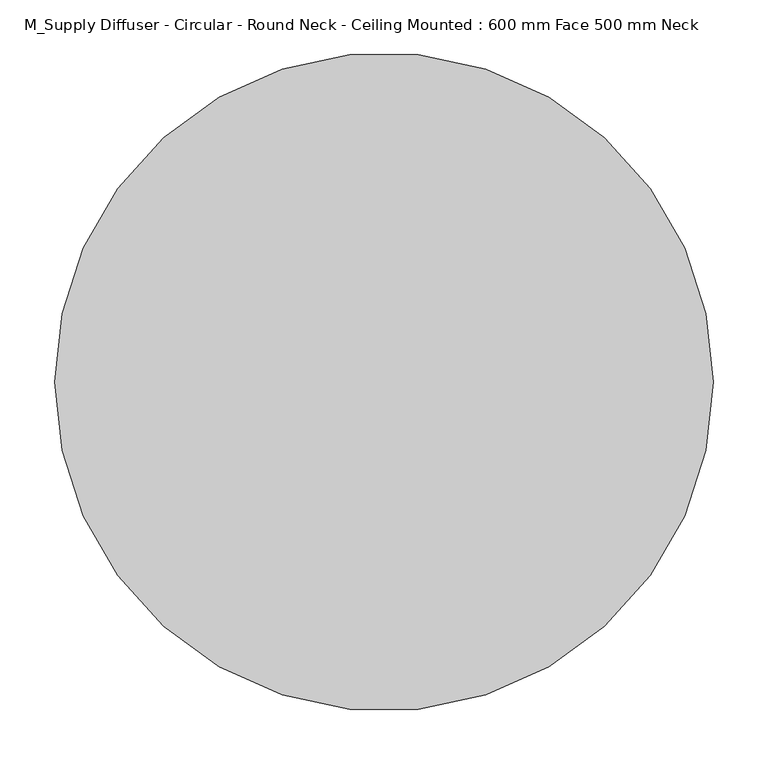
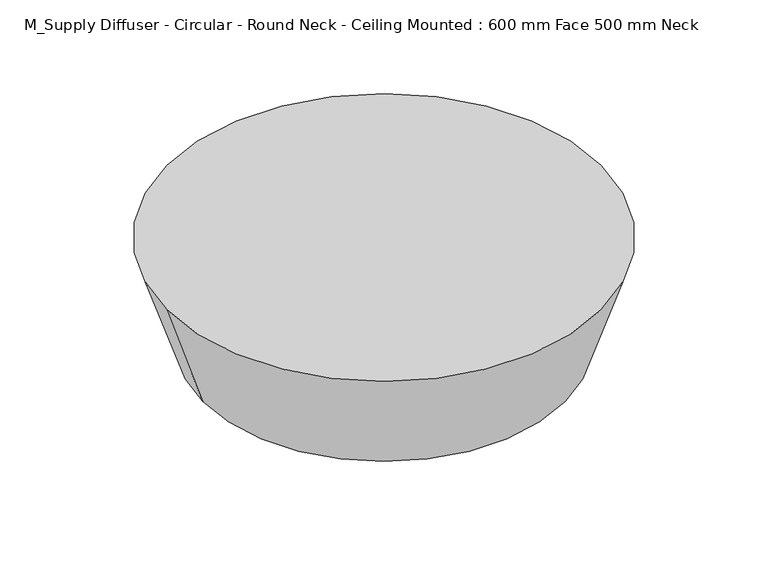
"""IFC4 building model written with IfcOpenShell, lengths in millimetres: air terminal geometry, M_Supply Diffuser - Circular - Round Neck - Ceiling Mounted : 600 mm Face 500 mm Neck."""

from ifc_helpers import new_model, si_unit, point, frame, origin, origin_with_axes, origin_2d, place, context, project, spatial, polyline, circle_curve, trimmed, segment, composite_curve, outline, extrude, source, transform, mapped, element, save
from ifc_brep_helpers import plane_surface, revolved_surface, advanced_brep


def m_supply_diffuser_circular_round_neck_ceiling_mounted_600_mm_208f270a(model_context):
    return source(origin(), model_context, "Body", "SolidModel", [
        extrude(outline(composite_curve([segment(trimmed(circle_curve(origin_2d(), 63.5), [point((-63.5, 0.0))], [point((63.5, 0.0))], False, "CARTESIAN"), True, "CONTINUOUS"), segment(trimmed(circle_curve(origin_2d(), 63.5), [point((63.5, 0.0))], [point((-63.5, 0.0))], False, "CARTESIAN"), True, "CONTINUOUS")], self_intersect=False)), frame((0.0, 0.0, -157.0), z_axis=(0.0, 0.0, 1.0), x_axis=(1.0, 0.0, 0.0)), (0.0, 0.0, 1.0), 5.0),
        advanced_brep(
        [(-250.0, 0.0, -152.0), (250.0, 0.0, -152.0), (-300.0, 0.0, 0.0), (300.0, 0.0, 0.0)],
        [
            (0, 1, circle_curve(frame((0.0, 0.0, -152.0), z_axis=(0.0, 0.0, -1.0), x_axis=(-1.0, 0.0, 0.0)), 250.0)),
            (1, 0, circle_curve(frame((0.0, 0.0, -152.0), z_axis=(0.0, 0.0, -1.0), x_axis=(1.0, 0.0, 0.0)), 250.0)),
            (2, 3, circle_curve(origin_with_axes(), 300.0)),
            (3, 2, circle_curve(frame((0.0, 0.0, 0.0), z_axis=(0.0, 0.0, 1.0), x_axis=(-1.0, 0.0, 0.0)), 300.0)),
            (3, 1),
            (0, 2),
        ],
        [
            plane_surface(frame((0.0, 0.0, -152.0), z_axis=(0.0, 0.0, -1.0), x_axis=(0.0, -1.0, 0.0))),
            plane_surface(frame((0.0, 0.0, 0.0), z_axis=(0.0, 0.0, 1.0), x_axis=(0.0, -1.0, 0.0))),
            revolved_surface(polyline([(-250.0, 0.0, -152.0), (-300.0, 0.0, 0.0)]), (0.0, 0.0, -912.0), (0.0, 0.0, 1.0)),
            revolved_surface(polyline([(250.0, 0.0, -152.0), (300.0, 0.0, 0.0)]), (0.0, 0.0, -912.0), (0.0, 0.0, 1.0)),
        ],
        [
            (0, [[1, 2]]),
            (1, [[3, 4]]),
            (2, [[-4, 5, -1, 6]]),
            (3, [[-3, -6, -2, -5]]),
        ],
    ),
    ])


if __name__ == "__main__":
    model = new_model("IFC4")
    model_context = context("Model", 3, world=origin())
    ifc_project = project(units=[si_unit("LENGTHUNIT", "METRE", prefix="MILLI")], contexts=[model_context])
    site = spatial("IfcSite", under=ifc_project)
    building = spatial("IfcBuilding", under=site)
    placement = place(None, origin())
    m_supply_diffuser_circular_round_neck_ceiling_mounted_600_mm_shape = m_supply_diffuser_circular_round_neck_ceiling_mounted_600_mm_208f270a(model_context)
    element("IfcAirTerminal", 1, ObjectType="M_Supply Diffuser - Circular - Round Neck - Ceiling Mounted : 600 mm Face 500 mm Neck", at=placement, inside=building, context=model_context, shape_type="MappedRepresentation", body=[
        mapped(m_supply_diffuser_circular_round_neck_ceiling_mounted_600_mm_shape, transform((0.0, 0.0, 0.0), x_axis=(1.0, 0.0, 0.0), y_axis=(0.0, 1.0, 0.0), z_axis=(0.0, 0.0, 1.0))),
    ])
    save(model, "model.ifc")
